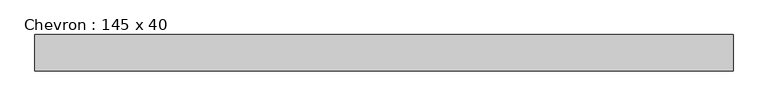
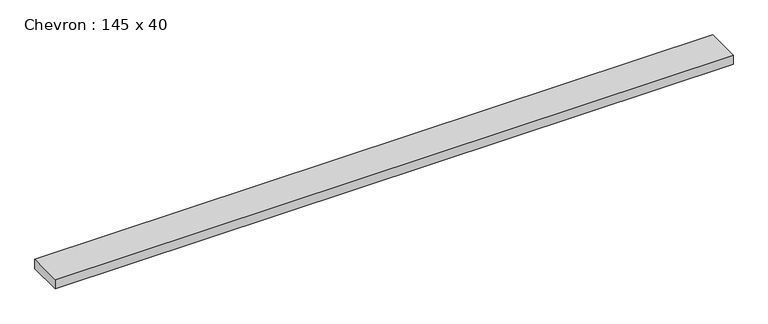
"""IFC4 building model written with IfcOpenShell, lengths in millimetres: beam geometry, Chevron : 145 x 40."""

from ifc_helpers import new_model, si_unit, frame, origin, place, context, project, spatial, polyline, outline, extrude, source, transform, mapped, element, save


def chevron_145_x_40_cf7908cb(model_context):
    return source(origin(), model_context, "Body", "SweptSolid", [
        extrude(outline(polyline([(1393.5, 72.5), (1393.5, -72.5), (-1393.5, -72.5), (-1393.5, 72.5), (1393.5, 72.5)])), frame((0.0, 0.0, -20.0), z_axis=(0.0, 0.0, 1.0), x_axis=(1.0, 0.0, 0.0)), (0.0, 0.0, 1.0), 40.0),
    ])


if __name__ == "__main__":
    model = new_model("IFC4")
    model_context = context("Model", 3, world=origin())
    ifc_project = project(units=[si_unit("LENGTHUNIT", "METRE", prefix="MILLI")], contexts=[model_context])
    site = spatial("IfcSite", under=ifc_project)
    building = spatial("IfcBuilding", under=site)
    placement = place(None, origin())
    chevron_145_x_40_shape = chevron_145_x_40_cf7908cb(model_context)
    element("IfcBeam", 1, ObjectType="Chevron : 145 x 40", at=placement, inside=building, context=model_context, shape_type="MappedRepresentation", body=[
        mapped(chevron_145_x_40_shape, transform((0.0, 0.0, 0.0), x_axis=(1.0, 0.0, 0.0), y_axis=(0.0, 1.0, 0.0), z_axis=(0.0, 0.0, 1.0))),
    ])
    save(model, "model.ifc")
